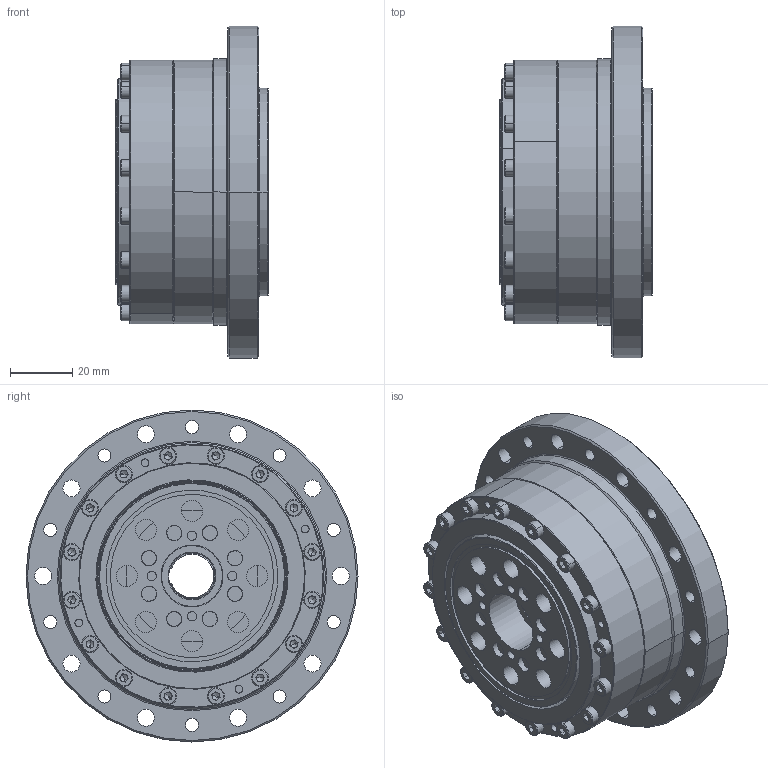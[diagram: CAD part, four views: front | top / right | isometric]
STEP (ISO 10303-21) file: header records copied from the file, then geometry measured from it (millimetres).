
FILE_DESCRIPTION (( 'STEP AP203' ), '1' );
FILE_NAME ('BCSG-25-XXX-U-¢ñ.STEP', '2019-01-15T03:34:45', ( 'User' ), ( 'China' ), 'SwSTEP 2.0', 'SolidWorks 2015', '' );
FILE_SCHEMA (( 'CONFIG_CONTROL_DESIGN' ));
Length unit declared in the file: millimetre
Products named in the file (1): BCSG-25-XXX-U-ｉ
Bounding box: 49 x 107 x 107 mm (x, y, z)
Surface area: 63138.4 mm2 (no closed solid volume)
Topology: 0 solids, 57 shells, 499 faces, 1517 edges, 993 vertices
Faces by surface type: cylinder 165, plane 163, cone 113, sphere 40, torus 14, bspline 4
Entity records: 18083 total; most frequent: CARTESIAN_POINT 4666, DIRECTION 3079, ORIENTED_EDGE 2326, EDGE_CURVE 1385, AXIS2_PLACEMENT_3D 1215, VERTEX_POINT 933, CIRCLE 719, EDGE_LOOP 658
